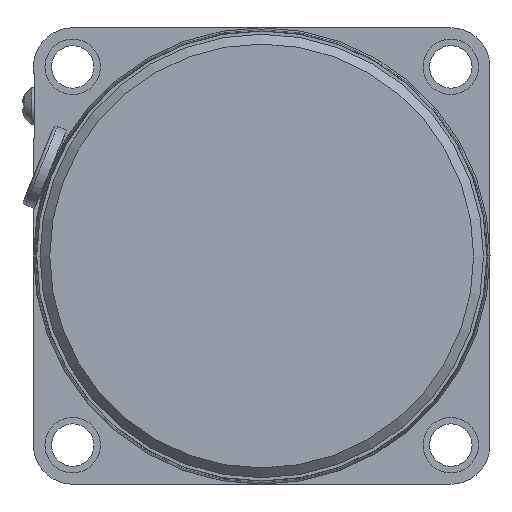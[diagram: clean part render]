
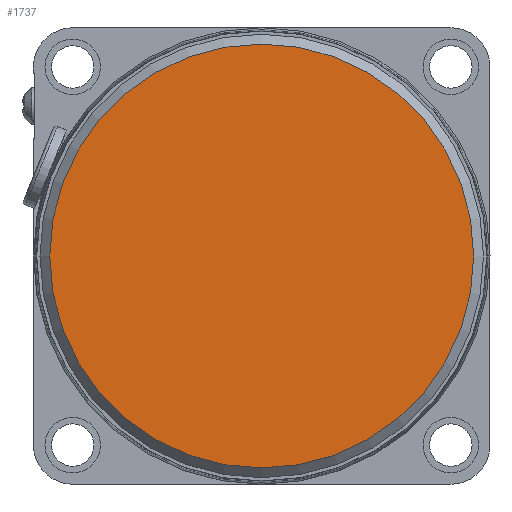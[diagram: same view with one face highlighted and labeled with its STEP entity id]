
A CAD part, left-side view. The second image highlights one B-rep face of the part: STEP entity #1737.
In plain terms, the highlighted planar face has unit normal (-1, 0, 0).
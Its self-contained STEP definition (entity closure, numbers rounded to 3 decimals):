
#139=FACE_OUTER_BOUND('',#253,.T.);
#253=EDGE_LOOP('',(#1213));
#644=CIRCLE('',#1875,32.5);
#744=VERTEX_POINT('',#2694);
#924=EDGE_CURVE('',#744,#744,#644,.T.);
#1213=ORIENTED_EDGE('',*,*,#924,.F.);
#1560=PLANE('',#1876);
#1737=ADVANCED_FACE('',(#139),#1560,.T.);
#1875=AXIS2_PLACEMENT_3D('',#2695,#2145,#2146);
#1876=AXIS2_PLACEMENT_3D('',#2696,#2147,#2148);
#2145=DIRECTION('center_axis',(1.,0.,0.));
#2146=DIRECTION('ref_axis',(0.,1.,0.));
#2147=DIRECTION('center_axis',(-1.,0.,0.));
#2148=DIRECTION('ref_axis',(0.,0.,1.));
#2694=CARTESIAN_POINT('',(0.,32.5,0.));
#2695=CARTESIAN_POINT('Origin',(0.,0.,
0.));
#2696=CARTESIAN_POINT('Origin',(0.,16.25,0.));
